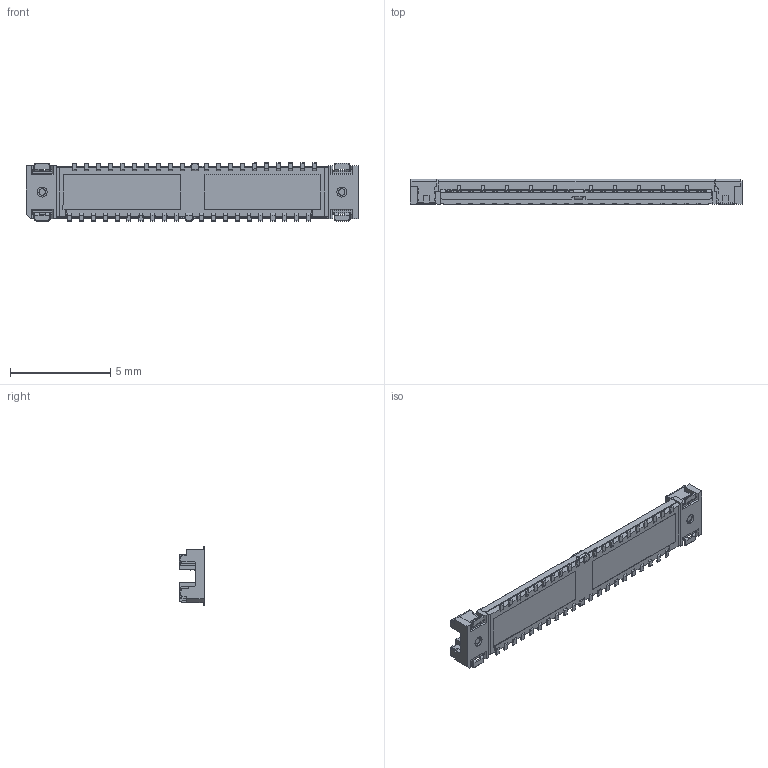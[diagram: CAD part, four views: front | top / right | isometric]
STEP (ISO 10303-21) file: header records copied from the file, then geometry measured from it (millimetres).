
FILE_DESCRIPTION (( 'STEP AP203' ), '1' );
FILE_NAME ('20498-040E-00C RECE ASS''Y STEP R2 ALL.STEP', '2012-05-29T06:29:07', ( 'I-PEX' ), ( 'I-PEX' ), 'SwSTEP 2.0', 'SolidWorks 2011', '' );
FILE_SCHEMA (( 'CONFIG_CONTROL_DESIGN' ));
Length unit declared in the file: millimetre
Products named in the file (1): 20498-040E-00C RECE ASS''Y STEP R2 ALL
Bounding box: 16.6 x 1.27 x 2.9 mm (x, y, z)
Volume: 29.6 mm3; surface area: 185.9 mm2
Topology: 1 solids, 1 shells, 2000 faces, 5818 edges, 3820 vertices
Faces by surface type: plane 1747, cylinder 229, cone 24
Entity records: 65333 total; most frequent: CARTESIAN_POINT 12284, ORIENTED_EDGE 11636, DIRECTION 10109, EDGE_CURVE 5818, LINE 5311, VECTOR 5311, VERTEX_POINT 3820, AXIS2_PLACEMENT_3D 2399
